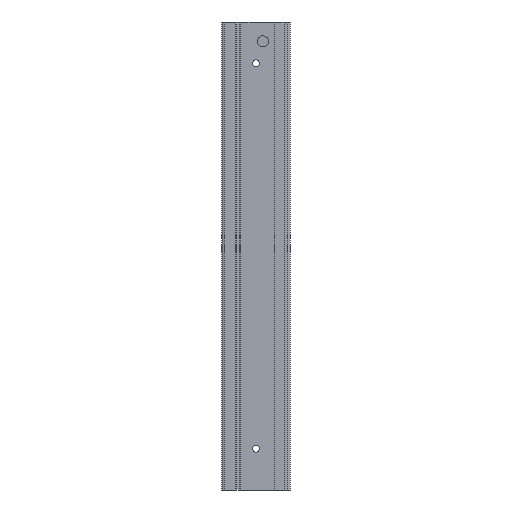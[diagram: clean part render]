
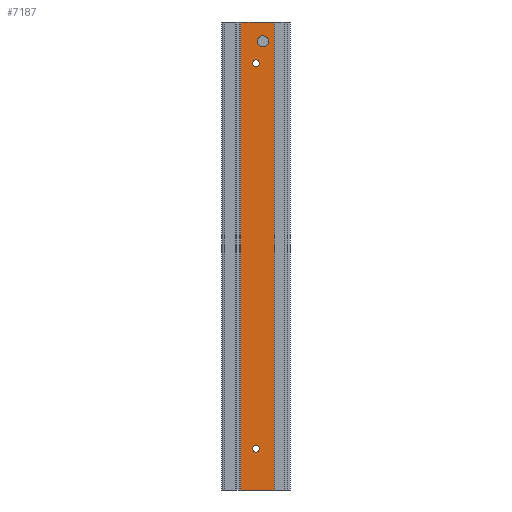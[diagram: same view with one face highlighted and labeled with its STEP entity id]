
A CAD part, left-side view. The second image highlights one B-rep face of the part: STEP entity #7187.
In plain terms, the highlighted planar face has unit normal (-1, 0, 0).
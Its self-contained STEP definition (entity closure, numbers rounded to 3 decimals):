
#35 = DIRECTION ( 'NONE',  ( -1., 0., 0. ) ) ;
#325 = EDGE_CURVE ( 'NONE', #5104, #18385, #18307, .T. ) ;
#363 = VERTEX_POINT ( 'NONE', #18365 ) ;
#722 = FACE_OUTER_BOUND ( 'NONE', #23763, .T. ) ;
#723 = DIRECTION ( 'NONE',  ( -1., 0., 0. ) ) ;
#812 = CARTESIAN_POINT ( 'NONE',  ( -35., 12.5, 68.75 ) ) ;
#867 = CIRCLE ( 'NONE', #13983, 1.25 ) ;
#1831 = DIRECTION ( 'NONE',  ( -1., 0., 0. ) ) ;
#2194 = DIRECTION ( 'NONE',  ( -1., 0., 0. ) ) ;
#2233 = CIRCLE ( 'NONE', #12780, 1.25 ) ;
#2623 = EDGE_LOOP ( 'NONE', ( #13435, #22283 ) ) ;
#2671 = VERTEX_POINT ( 'NONE', #12386 ) ;
#2791 = DIRECTION ( 'NONE',  ( -1., 0., 0. ) ) ;
#3275 = CARTESIAN_POINT ( 'NONE',  ( -35., 12.5, -71.25 ) ) ;
#3416 = CARTESIAN_POINT ( 'NONE',  ( -35., 12.5, -68.75 ) ) ;
#3846 = VERTEX_POINT ( 'NONE', #11643 ) ;
#4278 = VECTOR ( 'NONE', #9265, 1000. ) ;
#4381 = VERTEX_POINT ( 'NONE', #9545 ) ;
#4410 = EDGE_CURVE ( 'NONE', #4381, #20844, #867, .T. ) ;
#4444 = DIRECTION ( 'NONE',  ( 0., 0., 1. ) ) ;
#4850 = EDGE_LOOP ( 'NONE', ( #17440, #6076 ) ) ;
#5104 = VERTEX_POINT ( 'NONE', #3275 ) ;
#5141 = FACE_BOUND ( 'NONE', #2623, .T. ) ;
#5200 = LINE ( 'NONE', #6246, #22017 ) ;
#5239 = EDGE_LOOP ( 'NONE', ( #22180, #7103 ) ) ;
#5273 = AXIS2_PLACEMENT_3D ( 'NONE', #14980, #7729, #9607 ) ;
#5893 = CARTESIAN_POINT ( 'NONE',  ( -35., 0., 85. ) ) ;
#6076 = ORIENTED_EDGE ( 'NONE', *, *, #325, .F. ) ;
#6162 = CARTESIAN_POINT ( 'NONE',  ( -35., 10., 78. ) ) ;
#6246 = CARTESIAN_POINT ( 'NONE',  ( -35., 0., 85. ) ) ;
#6422 = EDGE_CURVE ( 'NONE', #20844, #4381, #2233, .T. ) ;
#7103 = ORIENTED_EDGE ( 'NONE', *, *, #19667, .F. ) ;
#7187 = ADVANCED_FACE ( 'NONE', ( #15141, #7512, #5141, #722 ), #11633, .T. ) ;
#7423 = CARTESIAN_POINT ( 'NONE',  ( -35., 12.5, 70. ) ) ;
#7479 = CARTESIAN_POINT ( 'NONE',  ( -35., 18., 85. ) ) ;
#7512 = FACE_BOUND ( 'NONE', #4850, .T. ) ;
#7594 = VECTOR ( 'NONE', #12931, 1000. ) ;
#7729 = DIRECTION ( 'NONE',  ( -1., 0., 0. ) ) ;
#7894 = CIRCLE ( 'NONE', #24303, 1.25 ) ;
#7901 = LINE ( 'NONE', #11113, #7594 ) ;
#8442 = EDGE_CURVE ( 'NONE', #363, #2671, #7901, .T. ) ;
#8501 = CARTESIAN_POINT ( 'NONE',  ( -35., 18., 85. ) ) ;
#8507 = DIRECTION ( 'NONE',  ( 0., 0., 1. ) ) ;
#9265 = DIRECTION ( 'NONE',  ( 0., 0., -1. ) ) ;
#9545 = CARTESIAN_POINT ( 'NONE',  ( -35., 12.5, 71.25 ) ) ;
#9607 = DIRECTION ( 'NONE',  ( 0., 0., 1. ) ) ;
#9725 = DIRECTION ( 'NONE',  ( 0., 0., 1. ) ) ;
#9949 = DIRECTION ( 'NONE',  ( 0., 1., 0. ) ) ;
#10564 = AXIS2_PLACEMENT_3D ( 'NONE', #5893, #2194, #9725 ) ;
#11113 = CARTESIAN_POINT ( 'NONE',  ( -35., 0., -85. ) ) ;
#11261 = ORIENTED_EDGE ( 'NONE', *, *, #8442, .F. ) ;
#11633 = PLANE ( 'NONE',  #10564 ) ;
#11643 = CARTESIAN_POINT ( 'NONE',  ( -35., 10., 76. ) ) ;
#11824 = EDGE_CURVE ( 'NONE', #3846, #23416, #16206, .T. ) ;
#12386 = CARTESIAN_POINT ( 'NONE',  ( -35., 18., -85. ) ) ;
#12409 = CARTESIAN_POINT ( 'NONE',  ( -35., 10., 80. ) ) ;
#12780 = AXIS2_PLACEMENT_3D ( 'NONE', #16078, #17977, #8507 ) ;
#12931 = DIRECTION ( 'NONE',  ( 0., 1., 0. ) ) ;
#13425 = EDGE_CURVE ( 'NONE', #18662, #18693, #5200, .T. ) ;
#13435 = ORIENTED_EDGE ( 'NONE', *, *, #4410, .F. ) ;
#13808 = CARTESIAN_POINT ( 'NONE',  ( -35., 12.5, -70. ) ) ;
#13883 = EDGE_CURVE ( 'NONE', #18693, #2671, #17518, .T. ) ;
#13983 = AXIS2_PLACEMENT_3D ( 'NONE', #7423, #35, #18963 ) ;
#14980 = CARTESIAN_POINT ( 'NONE',  ( -35., 10., 78. ) ) ;
#15141 = FACE_BOUND ( 'NONE', #5239, .T. ) ;
#15943 = CIRCLE ( 'NONE', #5273, 2. ) ;
#16078 = CARTESIAN_POINT ( 'NONE',  ( -35., 12.5, 70. ) ) ;
#16206 = CIRCLE ( 'NONE', #24269, 2. ) ;
#17440 = ORIENTED_EDGE ( 'NONE', *, *, #22598, .F. ) ;
#17518 = LINE ( 'NONE', #7479, #4278 ) ;
#17977 = DIRECTION ( 'NONE',  ( -1., 0., 0. ) ) ;
#18307 = CIRCLE ( 'NONE', #19938, 1.25 ) ;
#18365 = CARTESIAN_POINT ( 'NONE',  ( -35., 5.8, -85. ) ) ;
#18385 = VERTEX_POINT ( 'NONE', #3416 ) ;
#18538 = CARTESIAN_POINT ( 'NONE',  ( -35., 12.5, -70. ) ) ;
#18621 = DIRECTION ( 'NONE',  ( 0., 0., 1. ) ) ;
#18662 = VERTEX_POINT ( 'NONE', #23630 ) ;
#18693 = VERTEX_POINT ( 'NONE', #8501 ) ;
#18963 = DIRECTION ( 'NONE',  ( 0., 0., 1. ) ) ;
#19384 = LINE ( 'NONE', #20303, #22976 ) ;
#19667 = EDGE_CURVE ( 'NONE', #23416, #3846, #15943, .T. ) ;
#19938 = AXIS2_PLACEMENT_3D ( 'NONE', #18538, #1831, #18621 ) ;
#20303 = CARTESIAN_POINT ( 'NONE',  ( -35., 5.8, 85. ) ) ;
#20554 = DIRECTION ( 'NONE',  ( 0., 0., -1. ) ) ;
#20844 = VERTEX_POINT ( 'NONE', #812 ) ;
#21723 = ORIENTED_EDGE ( 'NONE', *, *, #13425, .T. ) ;
#22017 = VECTOR ( 'NONE', #9949, 1000. ) ;
#22180 = ORIENTED_EDGE ( 'NONE', *, *, #11824, .F. ) ;
#22237 = EDGE_CURVE ( 'NONE', #18662, #363, #19384, .T. ) ;
#22283 = ORIENTED_EDGE ( 'NONE', *, *, #6422, .F. ) ;
#22399 = ORIENTED_EDGE ( 'NONE', *, *, #22237, .F. ) ;
#22598 = EDGE_CURVE ( 'NONE', #18385, #5104, #7894, .T. ) ;
#22976 = VECTOR ( 'NONE', #20554, 1000. ) ;
#23028 = ORIENTED_EDGE ( 'NONE', *, *, #13883, .T. ) ;
#23404 = DIRECTION ( 'NONE',  ( 0., 0., 1. ) ) ;
#23416 = VERTEX_POINT ( 'NONE', #12409 ) ;
#23630 = CARTESIAN_POINT ( 'NONE',  ( -35., 5.8, 85. ) ) ;
#23763 = EDGE_LOOP ( 'NONE', ( #11261, #22399, #21723, #23028 ) ) ;
#24269 = AXIS2_PLACEMENT_3D ( 'NONE', #6162, #2791, #4444 ) ;
#24303 = AXIS2_PLACEMENT_3D ( 'NONE', #13808, #723, #23404 ) ;
